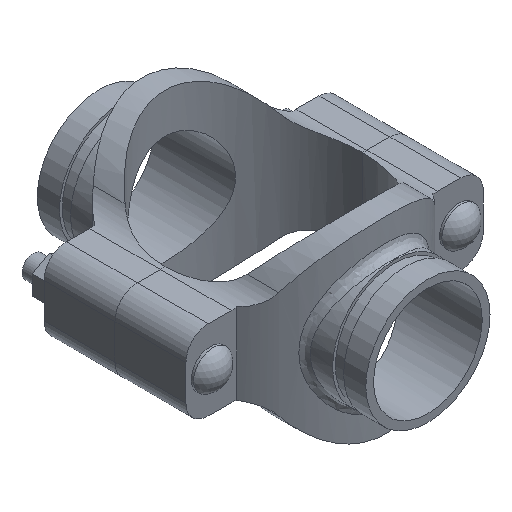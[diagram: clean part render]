
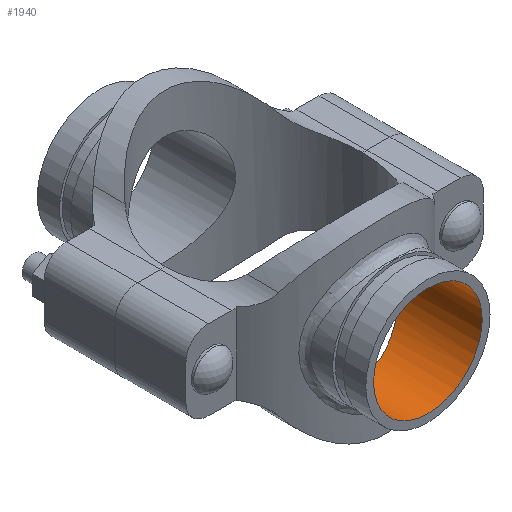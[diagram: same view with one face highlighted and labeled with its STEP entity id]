
A CAD part, isometric view. The second image highlights one B-rep face of the part: STEP entity #1940.
In plain terms, the highlighted cylindrical face has radius 38.894 mm (diameter 77.787 mm), a full revolution.
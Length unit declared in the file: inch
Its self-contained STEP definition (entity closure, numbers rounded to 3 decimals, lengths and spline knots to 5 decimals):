
#48=B_SPLINE_CURVE_WITH_KNOTS('',3,(#3884,#3885,#3886,#3887,#3888,#3889,
#3890,#3891,#3892,#3893,#3894,#3895,#3896,#3897,#3898,#3899,#3900,#3901,
#3902,#3903,#3904,#3905,#3906,#3907,#3908,#3909,#3910,#3911,#3912,#3913,
#3914,#3915,#3916,#3917,#3918,#3919,#3920,#3921,#3922,#3923,#3924,#3925,
#3926,#3927,#3928,#3929,#3930,#3931,#3932,#3933,#3934,#3935,#3936,#3937,
#3938,#3939,#3940,#3941,#3942,#3943,#3944,#3945,#3946,#3947,#3948,#3949),
 .UNSPECIFIED.,.T.,.F.,(4,2,2,2,2,2,2,2,2,2,2,2,2,2,2,2,2,2,2,2,2,2,2,2,
2,2,2,2,2,2,2,2,4),(0.,0.75292,1.50585,2.25877,
3.01169,3.76141,4.51112,5.26084,6.01055,
6.76027,7.50998,8.2597,9.00941,9.76233,
10.51526,11.26818,12.0211,12.77403,13.52695,
14.27988,15.0328,15.78251,16.53223,17.28194,
18.03166,18.78137,19.53109,20.2808,21.03051,
21.78344,22.53636,23.28928,24.04221),
 .UNSPECIFIED.);
#91=CYLINDRICAL_SURFACE('',#2169,1.53125);
#206=FACE_OUTER_BOUND('',#326,.T.);
#326=EDGE_LOOP('',(#1552,#1553,#1554,#1555));
#474=LINE('',#3883,#620);
#620=VECTOR('',#2620,1.53125);
#716=CIRCLE('',#2170,1.53125);
#877=VERTEX_POINT('',#3880);
#878=VERTEX_POINT('',#3882);
#1116=EDGE_CURVE('',#877,#877,#716,.T.);
#1117=EDGE_CURVE('',#877,#878,#474,.T.);
#1118=EDGE_CURVE('',#878,#878,#48,.T.);
#1552=ORIENTED_EDGE('',*,*,#1116,.F.);
#1553=ORIENTED_EDGE('',*,*,#1117,.T.);
#1554=ORIENTED_EDGE('',*,*,#1118,.F.);
#1555=ORIENTED_EDGE('',*,*,#1117,.F.);
#1940=ADVANCED_FACE('',(#206),#91,.F.);
#2169=AXIS2_PLACEMENT_3D('',#3879,#2616,#2617);
#2170=AXIS2_PLACEMENT_3D('',#3881,#2618,#2619);
#2616=DIRECTION('center_axis',(0.,-1.,0.));
#2617=DIRECTION('ref_axis',(-1.,0.,0.));
#2618=DIRECTION('center_axis',(0.,-1.,0.));
#2619=DIRECTION('ref_axis',(-1.,0.,0.));
#2620=DIRECTION('',(0.,-1.,0.));
#3879=CARTESIAN_POINT('Origin',(0.,4.63,0.));
#3880=CARTESIAN_POINT('',(1.53125,4.63,0.));
#3881=CARTESIAN_POINT('Origin',(0.,4.63,0.));
#3882=CARTESIAN_POINT('',(1.53125,2.32207,0.));
#3883=CARTESIAN_POINT('',(1.53125,4.63,0.));
#3884=CARTESIAN_POINT('Ctrl Pts',(1.53125,2.32207,0.));
#3885=CARTESIAN_POINT('Ctrl Pts',(1.53125,2.32207,-0.09881));
#3886=CARTESIAN_POINT('Ctrl Pts',(1.52154,2.32857,-0.20002));
#3887=CARTESIAN_POINT('Ctrl Pts',(1.48167,2.35414,-0.39969));
#3888=CARTESIAN_POINT('Ctrl Pts',(1.45153,2.37316,-0.49815));
#3889=CARTESIAN_POINT('Ctrl Pts',(1.37285,2.41953,-0.68583));
#3890=CARTESIAN_POINT('Ctrl Pts',(1.32426,2.44684,-0.77524));
#3891=CARTESIAN_POINT('Ctrl Pts',(1.21269,2.50401,-0.94023));
#3892=CARTESIAN_POINT('Ctrl Pts',(1.1497,2.53381,-1.01581));
#3893=CARTESIAN_POINT('Ctrl Pts',(1.0161,2.59027,-1.14942));
#3894=CARTESIAN_POINT('Ctrl Pts',(0.94066,2.61905,-1.21236));
#3895=CARTESIAN_POINT('Ctrl Pts',(0.77562,2.67258,-1.32404));
#3896=CARTESIAN_POINT('Ctrl Pts',(0.68601,2.69729,-1.37278));
#3897=CARTESIAN_POINT('Ctrl Pts',(0.49791,2.73826,-1.45162));
#3898=CARTESIAN_POINT('Ctrl Pts',(0.39923,2.75453,-1.48179));
#3899=CARTESIAN_POINT('Ctrl Pts',(0.19947,2.77616,-1.52161));
#3900=CARTESIAN_POINT('Ctrl Pts',(0.09839,2.7815,-1.53125));
#3901=CARTESIAN_POINT('Ctrl Pts',(-0.09839,2.7815,-1.53125));
#3902=CARTESIAN_POINT('Ctrl Pts',(-0.19947,2.77616,-1.52161));
#3903=CARTESIAN_POINT('Ctrl Pts',(-0.39923,2.75453,-1.48179));
#3904=CARTESIAN_POINT('Ctrl Pts',(-0.49791,2.73826,-1.45162));
#3905=CARTESIAN_POINT('Ctrl Pts',(-0.68601,2.69729,-1.37278));
#3906=CARTESIAN_POINT('Ctrl Pts',(-0.77562,2.67258,-1.32404));
#3907=CARTESIAN_POINT('Ctrl Pts',(-0.94066,2.61905,-1.21236));
#3908=CARTESIAN_POINT('Ctrl Pts',(-1.0161,2.59027,-1.14942));
#3909=CARTESIAN_POINT('Ctrl Pts',(-1.1497,2.53381,-1.01581));
#3910=CARTESIAN_POINT('Ctrl Pts',(-1.21269,2.50401,-0.94023));
#3911=CARTESIAN_POINT('Ctrl Pts',(-1.32426,2.44684,-0.77524));
#3912=CARTESIAN_POINT('Ctrl Pts',(-1.37285,2.41953,-0.68583));
#3913=CARTESIAN_POINT('Ctrl Pts',(-1.45153,2.37316,-0.49815));
#3914=CARTESIAN_POINT('Ctrl Pts',(-1.48167,2.35414,-0.39969));
#3915=CARTESIAN_POINT('Ctrl Pts',(-1.52154,2.32857,-0.20002));
#3916=CARTESIAN_POINT('Ctrl Pts',(-1.53125,2.32207,-0.09881));
#3917=CARTESIAN_POINT('Ctrl Pts',(-1.53125,2.32207,0.09881));
#3918=CARTESIAN_POINT('Ctrl Pts',(-1.52154,2.32857,0.20002));
#3919=CARTESIAN_POINT('Ctrl Pts',(-1.48167,2.35414,0.39969));
#3920=CARTESIAN_POINT('Ctrl Pts',(-1.45153,2.37316,0.49815));
#3921=CARTESIAN_POINT('Ctrl Pts',(-1.37285,2.41953,0.68583));
#3922=CARTESIAN_POINT('Ctrl Pts',(-1.32426,2.44684,0.77524));
#3923=CARTESIAN_POINT('Ctrl Pts',(-1.21269,2.50401,0.94023));
#3924=CARTESIAN_POINT('Ctrl Pts',(-1.1497,2.53381,1.01581));
#3925=CARTESIAN_POINT('Ctrl Pts',(-1.0161,2.59027,1.14942));
#3926=CARTESIAN_POINT('Ctrl Pts',(-0.94066,2.61905,1.21236));
#3927=CARTESIAN_POINT('Ctrl Pts',(-0.77562,2.67258,1.32404));
#3928=CARTESIAN_POINT('Ctrl Pts',(-0.68601,2.69729,1.37278));
#3929=CARTESIAN_POINT('Ctrl Pts',(-0.49791,2.73826,1.45162));
#3930=CARTESIAN_POINT('Ctrl Pts',(-0.39923,2.75453,1.48179));
#3931=CARTESIAN_POINT('Ctrl Pts',(-0.19947,2.77616,1.52161));
#3932=CARTESIAN_POINT('Ctrl Pts',(-0.09839,2.7815,1.53125));
#3933=CARTESIAN_POINT('Ctrl Pts',(0.09839,2.7815,1.53125));
#3934=CARTESIAN_POINT('Ctrl Pts',(0.19947,2.77616,1.52161));
#3935=CARTESIAN_POINT('Ctrl Pts',(0.39923,2.75453,1.48179));
#3936=CARTESIAN_POINT('Ctrl Pts',(0.49791,2.73826,1.45162));
#3937=CARTESIAN_POINT('Ctrl Pts',(0.68601,2.69729,1.37278));
#3938=CARTESIAN_POINT('Ctrl Pts',(0.77562,2.67258,1.32404));
#3939=CARTESIAN_POINT('Ctrl Pts',(0.94066,2.61905,1.21236));
#3940=CARTESIAN_POINT('Ctrl Pts',(1.0161,2.59027,1.14942));
#3941=CARTESIAN_POINT('Ctrl Pts',(1.1497,2.53381,1.01581));
#3942=CARTESIAN_POINT('Ctrl Pts',(1.21269,2.50401,0.94023));
#3943=CARTESIAN_POINT('Ctrl Pts',(1.32426,2.44684,0.77524));
#3944=CARTESIAN_POINT('Ctrl Pts',(1.37285,2.41953,0.68583));
#3945=CARTESIAN_POINT('Ctrl Pts',(1.45153,2.37316,0.49815));
#3946=CARTESIAN_POINT('Ctrl Pts',(1.48167,2.35414,0.39969));
#3947=CARTESIAN_POINT('Ctrl Pts',(1.52154,2.32857,0.20002));
#3948=CARTESIAN_POINT('Ctrl Pts',(1.53125,2.32207,0.09881));
#3949=CARTESIAN_POINT('Ctrl Pts',(1.53125,2.32207,0.));
